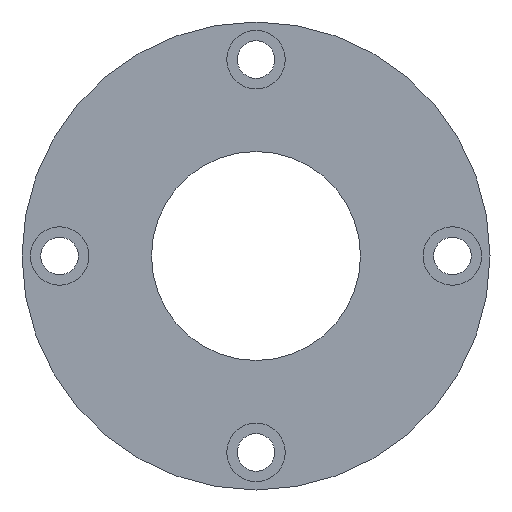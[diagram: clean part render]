
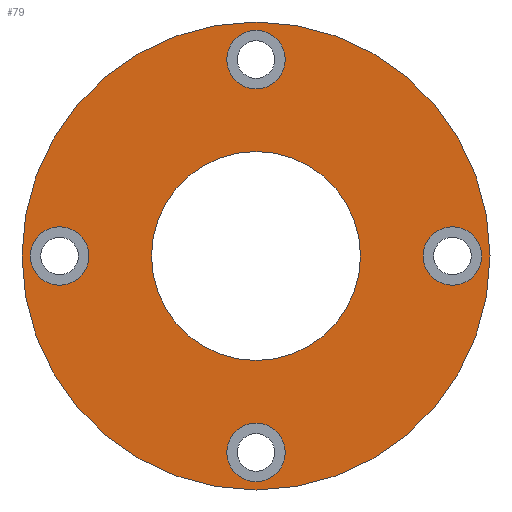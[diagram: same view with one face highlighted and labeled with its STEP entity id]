
A CAD part, left-side view. The second image highlights one B-rep face of the part: STEP entity #79.
In plain terms, the highlighted planar face has unit normal (-1, 0, 0).
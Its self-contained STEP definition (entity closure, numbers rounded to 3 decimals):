
#79 = ADVANCED_FACE( '', ( #110, #111, #112, #113, #114, #115 ), #116, .T. );
#110 = FACE_BOUND( '', #172, .T. );
#111 = FACE_BOUND( '', #173, .T. );
#112 = FACE_BOUND( '', #174, .T. );
#113 = FACE_BOUND( '', #175, .T. );
#114 = FACE_BOUND( '', #176, .T. );
#115 = FACE_OUTER_BOUND( '', #177, .T. );
#116 = PLANE( '', #178 );
#172 = EDGE_LOOP( '', ( #242 ) );
#173 = EDGE_LOOP( '', ( #243 ) );
#174 = EDGE_LOOP( '', ( #244 ) );
#175 = EDGE_LOOP( '', ( #245 ) );
#176 = EDGE_LOOP( '', ( #246 ) );
#177 = EDGE_LOOP( '', ( #247 ) );
#178 = AXIS2_PLACEMENT_3D( '', #248, #249, #250 );
#242 = ORIENTED_EDGE( '', *, *, #324, .T. );
#243 = ORIENTED_EDGE( '', *, *, #325, .T. );
#244 = ORIENTED_EDGE( '', *, *, #326, .T. );
#245 = ORIENTED_EDGE( '', *, *, #327, .T. );
#246 = ORIENTED_EDGE( '', *, *, #328, .T. );
#247 = ORIENTED_EDGE( '', *, *, #329, .F. );
#248 = CARTESIAN_POINT( '', ( 0., 56., 0. ) );
#249 = DIRECTION( '', ( -1., 0., 0. ) );
#250 = DIRECTION( '', ( 0., 0., 1. ) );
#324 = EDGE_CURVE( '', #354, #354, #355, .T. );
#325 = EDGE_CURVE( '', #356, #356, #357, .F. );
#326 = EDGE_CURVE( '', #358, #358, #359, .T. );
#327 = EDGE_CURVE( '', #360, #360, #361, .T. );
#328 = EDGE_CURVE( '', #362, #362, #363, .T. );
#329 = EDGE_CURVE( '', #364, #364, #365, .T. );
#354 = VERTEX_POINT( '', #398 );
#355 = CIRCLE( '', #399, 25. );
#356 = VERTEX_POINT( '', #400 );
#357 = CIRCLE( '', #401, 7. );
#358 = VERTEX_POINT( '', #402 );
#359 = CIRCLE( '', #403, 7. );
#360 = VERTEX_POINT( '', #404 );
#361 = CIRCLE( '', #405, 7. );
#362 = VERTEX_POINT( '', #406 );
#363 = CIRCLE( '', #407, 7. );
#364 = VERTEX_POINT( '', #408 );
#365 = CIRCLE( '', #409, 56. );
#398 = CARTESIAN_POINT( '', ( 0., 0., -25. ) );
#399 = AXIS2_PLACEMENT_3D( '', #450, #451, #452 );
#400 = CARTESIAN_POINT( '', ( 0., 47., 7. ) );
#401 = AXIS2_PLACEMENT_3D( '', #453, #454, #455 );
#402 = CARTESIAN_POINT( '', ( 0., 0., 40. ) );
#403 = AXIS2_PLACEMENT_3D( '', #456, #457, #458 );
#404 = CARTESIAN_POINT( '', ( 0., 0., -54. ) );
#405 = AXIS2_PLACEMENT_3D( '', #459, #460, #461 );
#406 = CARTESIAN_POINT( '', ( 0., -47., -7. ) );
#407 = AXIS2_PLACEMENT_3D( '', #462, #463, #464 );
#408 = CARTESIAN_POINT( '', ( 0., 0., -56. ) );
#409 = AXIS2_PLACEMENT_3D( '', #465, #466, #467 );
#450 = CARTESIAN_POINT( '', ( 0., 0., 0. ) );
#451 = DIRECTION( '', ( 1., 0., 0. ) );
#452 = DIRECTION( '', ( 0., 0., -1. ) );
#453 = CARTESIAN_POINT( '', ( 0., 47., 0. ) );
#454 = DIRECTION( '', ( -1., 0., 0. ) );
#455 = DIRECTION( '', ( 0., 0., 1. ) );
#456 = CARTESIAN_POINT( '', ( 0., 0., 47. ) );
#457 = DIRECTION( '', ( 1., 0., 0. ) );
#458 = DIRECTION( '', ( 0., 0., -1. ) );
#459 = CARTESIAN_POINT( '', ( 0., 0., -47. ) );
#460 = DIRECTION( '', ( 1., 0., 0. ) );
#461 = DIRECTION( '', ( 0., 0., -1. ) );
#462 = CARTESIAN_POINT( '', ( 0., -47., 0. ) );
#463 = DIRECTION( '', ( 1., 0., 0. ) );
#464 = DIRECTION( '', ( 0., 0., -1. ) );
#465 = CARTESIAN_POINT( '', ( 0., 0., 0. ) );
#466 = DIRECTION( '', ( 1., 0., 0. ) );
#467 = DIRECTION( '', ( 0., 0., -1. ) );
